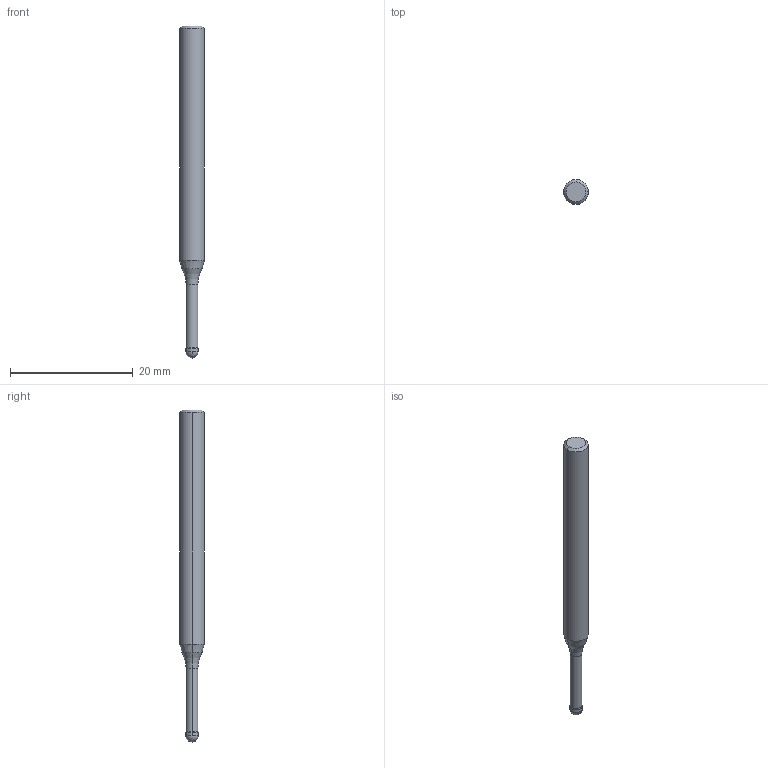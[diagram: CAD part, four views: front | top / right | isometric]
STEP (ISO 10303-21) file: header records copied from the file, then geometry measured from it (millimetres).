
FILE_DESCRIPTION (( 'STEP AP214' ), '1' );
FILE_NAME ('559.200.08_3D-model.step', '2022-02-18T15:41:14', ( '' ), ( '' ), 'SwSTEP 2.0', 'SolidWorks 2020', '' );
FILE_SCHEMA (( 'AUTOMOTIVE_DESIGN' ));
Length unit declared in the file: millimetre
Products named in the file (3): CUT-3D^Baugr13; NOCUT-3D^Baugr13; 559.200.08_3D-model
Assembly tree (2 placements, depth 2):
  559.200.08_3D-model
    CUT-3D^Baugr13
    NOCUT-3D^Baugr13
Bounding box: 4 x 4 x 54 mm (x, y, z)
Volume: 537.7 mm3; surface area: 603.3 mm2
Topology: 2 solids, 2 shells, 19 faces, 38 edges, 21 vertices
Faces by surface type: cylinder 6, cone 6, plane 3, sphere 2, torus 2
Entity records: 604 total; most frequent: DIRECTION 114, CARTESIAN_POINT 84, ORIENTED_EDGE 72, AXIS2_PLACEMENT_3D 51, EDGE_CURVE 36, CIRCLE 24, VERTEX_POINT 21, EDGE_LOOP 19
